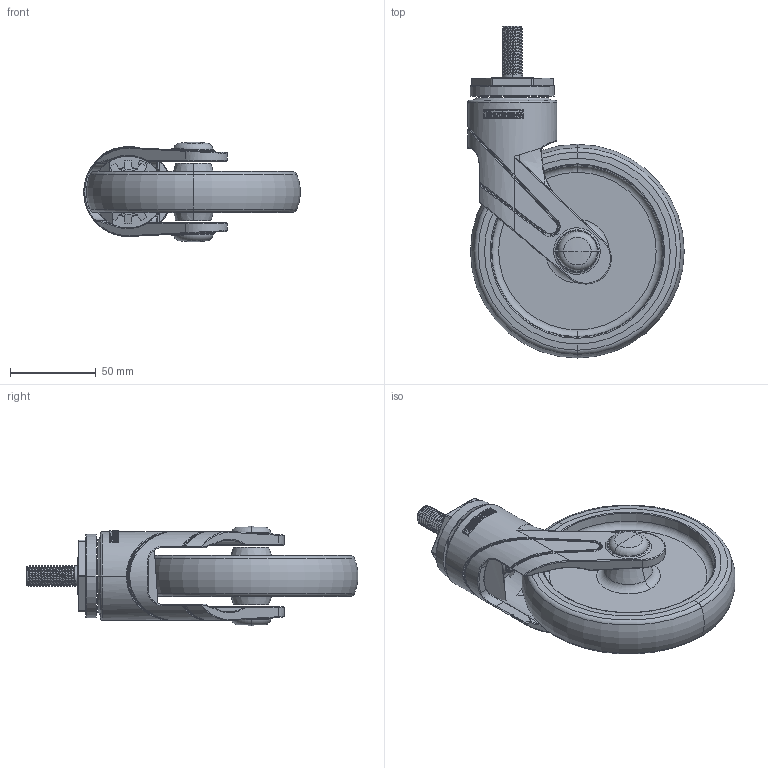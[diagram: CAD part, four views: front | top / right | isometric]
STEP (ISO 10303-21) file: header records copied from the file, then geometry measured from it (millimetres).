
FILE_DESCRIPTION((''),'2;1');
FILE_NAME('PRT0146','2026-05-11T18:42:07',('Administrator'),(''),'CREO PARAMETRIC BY PTC INC, 2022124','CREO PARAMETRIC BY PTC INC, 2022124','');
FILE_SCHEMA(('AUTOMOTIVE_DESIGN { 1 0 10303 214 1 1 1 1 }'));
Length unit declared in the file: millimetre
Products named in the file (1): PRT0146
Bounding box: 126.41 x 193.91 x 58.19 mm (x, y, z)
Surface area: 65653.7 mm2 (no closed solid volume)
Topology: 0 solids, 23 shells, 315 faces, 1321 edges, 995 vertices
Faces by surface type: cylinder 110, bspline 89, plane 45, torus 45, cone 20, sphere 4, extrusion 2
Entity records: 26834 total; most frequent: CARTESIAN_POINT 15116, ORIENTED_EDGE 1929, DIRECTION 1570, EDGE_CURVE 1311, VERTEX_POINT 995, AXIS2_PLACEMENT_3D 620, B_SPLINE_CURVE_WITH_KNOTS 602, CIRCLE 386
